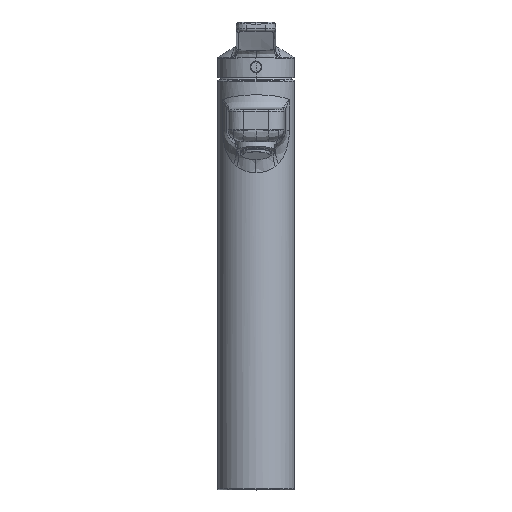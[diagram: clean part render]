
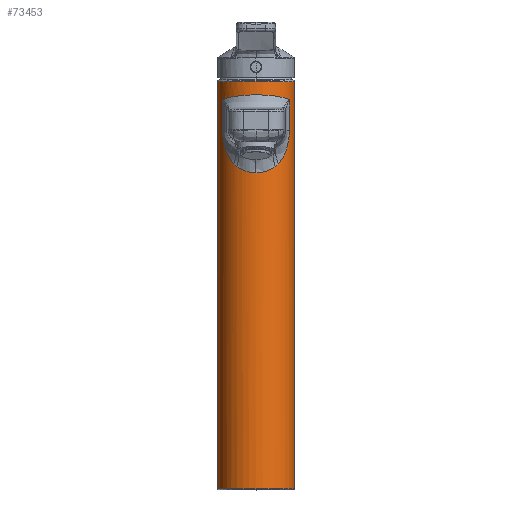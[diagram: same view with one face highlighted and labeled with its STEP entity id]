
A CAD part, top view. The second image highlights one B-rep face of the part: STEP entity #73453.
In plain terms, the highlighted cylindrical face has radius 22.5 mm (diameter 45 mm), a partial arc.
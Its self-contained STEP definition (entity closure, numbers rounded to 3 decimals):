
#9670=DIRECTION('',(0.,1.,0.));
#9671=VECTOR('',#9670,239.65);
#9672=CARTESIAN_POINT('',(22.5,0.8,-181.66));
#9673=LINE('',#9672,#9671);
#9674=CARTESIAN_POINT('',(0.,240.45,-181.66));
#9675=DIRECTION('',(0.,1.,0.));
#9676=DIRECTION('',(-1.,0.,0.));
#9677=AXIS2_PLACEMENT_3D('',#9674,#9675,#9676);
#9679=CARTESIAN_POINT('',(0.,0.8,-181.66));
#9680=DIRECTION('',(0.,-1.,0.));
#9681=DIRECTION('',(1.,0.,0.));
#9682=AXIS2_PLACEMENT_3D('',#9679,#9680,#9681);
#9684=DIRECTION('',(0.,1.,0.));
#9685=VECTOR('',#9684,239.65);
#9686=CARTESIAN_POINT('',(-22.5,0.8,-181.66));
#9687=LINE('',#9686,#9685);
#9688=CARTESIAN_POINT('',(-20.002,229.604,
-171.355));
#9689=CARTESIAN_POINT('',(-19.459,229.89,
-170.302));
#9690=CARTESIAN_POINT('',(-18.21,230.419,
-168.286));
#9691=CARTESIAN_POINT('',(-15.893,231.086,
-165.603));
#9692=CARTESIAN_POINT('',(-13.194,231.629,
-163.321));
#9693=CARTESIAN_POINT('',(-10.179,232.05,
-161.492));
#9694=CARTESIAN_POINT('',(-6.923,232.349,
-160.156));
#9695=CARTESIAN_POINT('',(-3.503,232.528,
-159.342));
#9696=CARTESIAN_POINT('',(0.,232.588,
-159.069));
#9697=CARTESIAN_POINT('',(3.503,232.528,-159.342));
#9698=CARTESIAN_POINT('',(6.923,232.349,-160.156));
#9699=CARTESIAN_POINT('',(10.18,232.05,-161.492));
#9700=CARTESIAN_POINT('',(13.194,231.629,-163.321));
#9701=CARTESIAN_POINT('',(15.893,231.086,-165.603));
#9702=CARTESIAN_POINT('',(18.21,230.419,-168.286));
#9703=CARTESIAN_POINT('',(19.459,229.89,-170.303));
#9704=CARTESIAN_POINT('',(20.002,229.604,-171.355));
#9706=CARTESIAN_POINT('',(-19.649,211.75,-170.699));
#9707=CARTESIAN_POINT('',(-19.642,211.024,
-170.685));
#9708=CARTESIAN_POINT('',(-19.592,209.482,
-170.595));
#9709=CARTESIAN_POINT('',(-19.367,206.91,
-170.202));
#9710=CARTESIAN_POINT('',(-18.918,204.039,
-169.464));
#9711=CARTESIAN_POINT('',(-18.162,200.947,
-168.345));
#9712=CARTESIAN_POINT('',(-16.919,197.545,
-166.765));
#9713=CARTESIAN_POINT('',(-15.104,194.266,
-164.916));
#9714=CARTESIAN_POINT('',(-13.816,192.675,
-163.882));
#9715=CARTESIAN_POINT('',(-13.143,191.968,
-163.398));
#9717=CARTESIAN_POINT('',(-13.143,191.968,
-163.398));
#9718=CARTESIAN_POINT('',(-12.936,191.75,
-163.249));
#9719=CARTESIAN_POINT('',(-12.519,191.338,
-162.959));
#9720=CARTESIAN_POINT('',(-11.887,190.791,
-162.551));
#9721=CARTESIAN_POINT('',(-11.462,190.475,
-162.297));
#9722=CARTESIAN_POINT('',(-11.249,190.329,
-162.174));
#9724=CARTESIAN_POINT('',(-11.249,190.329,
-162.174));
#9725=CARTESIAN_POINT('',(-10.461,189.79,
-161.719));
#9726=CARTESIAN_POINT('',(-8.878,188.845,
-160.933));
#9727=CARTESIAN_POINT('',(-6.576,187.826,
-160.099));
#9728=CARTESIAN_POINT('',(-4.335,187.14,
-159.544));
#9729=CARTESIAN_POINT('',(-2.155,186.747,
-159.228));
#9730=CARTESIAN_POINT('',(-0.712,186.662,
-159.16));
#9731=CARTESIAN_POINT('',(0.,186.662,-159.16));
#9733=CARTESIAN_POINT('',(0.,186.662,-159.16));
#9734=CARTESIAN_POINT('',(0.712,186.662,
-159.16));
#9735=CARTESIAN_POINT('',(2.155,186.747,-159.228));
#9736=CARTESIAN_POINT('',(4.335,187.14,-159.544));
#9737=CARTESIAN_POINT('',(6.576,187.826,-160.099));
#9738=CARTESIAN_POINT('',(8.878,188.845,-160.933));
#9739=CARTESIAN_POINT('',(10.461,189.79,-161.719));
#9740=CARTESIAN_POINT('',(11.249,190.329,-162.174));
#9742=CARTESIAN_POINT('',(11.249,190.329,-162.174));
#9743=CARTESIAN_POINT('',(11.462,190.475,-162.297));
#9744=CARTESIAN_POINT('',(11.887,190.791,-162.551));
#9745=CARTESIAN_POINT('',(12.519,191.338,-162.959));
#9746=CARTESIAN_POINT('',(12.936,191.75,-163.249));
#9747=CARTESIAN_POINT('',(13.143,191.968,-163.398));
#9749=CARTESIAN_POINT('',(13.143,191.968,-163.398));
#9750=CARTESIAN_POINT('',(13.817,192.676,-163.883));
#9751=CARTESIAN_POINT('',(15.106,194.269,-164.918));
#9752=CARTESIAN_POINT('',(16.924,197.552,-166.77));
#9753=CARTESIAN_POINT('',(18.164,200.951,-168.349));
#9754=CARTESIAN_POINT('',(18.92,204.043,-169.466));
#9755=CARTESIAN_POINT('',(19.368,206.912,-170.203));
#9756=CARTESIAN_POINT('',(19.592,209.483,-170.595));
#9757=CARTESIAN_POINT('',(19.642,211.025,-170.685));
#9758=CARTESIAN_POINT('',(19.649,211.75,-170.699));
#9802=CARTESIAN_POINT('',(-20.002,229.604,
-171.355));
#9821=CARTESIAN_POINT('',(20.002,229.604,-171.355));
#9823=CARTESIAN_POINT('',(20.002,229.604,-171.355));
#9824=CARTESIAN_POINT('',(19.956,227.477,-171.267));
#9825=CARTESIAN_POINT('',(19.883,223.318,-171.128));
#9826=CARTESIAN_POINT('',(19.744,217.382,-170.869));
#9827=CARTESIAN_POINT('',(19.669,213.597,-170.734));
#9828=CARTESIAN_POINT('',(19.649,211.75,-170.699));
#9887=CARTESIAN_POINT('',(-19.649,211.75,-170.699));
#9888=CARTESIAN_POINT('',(-19.669,213.6,
-170.735));
#9889=CARTESIAN_POINT('',(-19.745,217.389,
-170.87));
#9890=CARTESIAN_POINT('',(-19.884,223.326,
-171.129));
#9891=CARTESIAN_POINT('',(-19.956,227.481,
-171.268));
#9892=CARTESIAN_POINT('',(-20.002,229.604,
-171.355));
#50366=VERTEX_POINT('',#9749);
#50367=VERTEX_POINT('',#9758);
#50368=VERTEX_POINT('',#9742);
#50369=VERTEX_POINT('',#9733);
#50371=VERTEX_POINT('',#9724);
#50372=VERTEX_POINT('',#9717);
#50373=VERTEX_POINT('',#9706);
#50375=VERTEX_POINT('',#9821);
#50379=VERTEX_POINT('',#9802);
#50384=CARTESIAN_POINT('',(-22.5,240.45,-181.66));
#50385=CARTESIAN_POINT('',(22.5,240.45,-181.66));
#50386=VERTEX_POINT('',#50384);
#50387=VERTEX_POINT('',#50385);
#50392=CARTESIAN_POINT('',(-22.5,0.8,-181.66));
#50393=CARTESIAN_POINT('',(22.5,0.8,-181.66));
#50394=VERTEX_POINT('',#50392);
#50395=VERTEX_POINT('',#50393);
#73421=CARTESIAN_POINT('',(0.,0.,-181.66));
#73422=DIRECTION('',(0.,1.,0.));
#73423=DIRECTION('',(1.,0.,0.));
#73424=AXIS2_PLACEMENT_3D('',#73421,#73422,#73423);
#73425=CYLINDRICAL_SURFACE('',#73424,22.5);
#73426=ORIENTED_EDGE('',*,*,#73386,.T.);
#73427=ORIENTED_EDGE('',*,*,#73416,.F.);
#73429=ORIENTED_EDGE('',*,*,#73428,.T.);
#73430=ORIENTED_EDGE('',*,*,#73412,.T.);
#73431=EDGE_LOOP('',(#73426,#73427,#73429,#73430));
#73432=FACE_OUTER_BOUND('',#73431,.F.);
#73434=ORIENTED_EDGE('',*,*,#73433,.F.);
#73436=ORIENTED_EDGE('',*,*,#73435,.F.);
#73438=ORIENTED_EDGE('',*,*,#73437,.T.);
#73440=ORIENTED_EDGE('',*,*,#73439,.T.);
#73442=ORIENTED_EDGE('',*,*,#73441,.T.);
#73444=ORIENTED_EDGE('',*,*,#73443,.T.);
#73446=ORIENTED_EDGE('',*,*,#73445,.T.);
#73448=ORIENTED_EDGE('',*,*,#73447,.T.);
#73450=ORIENTED_EDGE('',*,*,#73449,.F.);
#73451=EDGE_LOOP('',(#73434,#73436,#73438,#73440,#73442,#73444,#73446,#73448,
#73450));
#73452=FACE_BOUND('',#73451,.F.);
#73453=ADVANCED_FACE('',(#73432,#73452),#73425,.T.);
#9678=CIRCLE('',#9677,22.5);
#9683=CIRCLE('',#9682,22.5);
#9705=B_SPLINE_CURVE_WITH_KNOTS('',3,(#9688,#9689,#9690,#9691,#9692,#9693,#9694,
#9695,#9696,#9697,#9698,#9699,#9700,#9701,#9702,#9703,#9704),.UNSPECIFIED.,.F.,
.F.,(4,1,1,1,1,1,1,1,1,1,1,1,1,1,4),(0.,0.071,0.143,
0.214,0.286,0.357,0.429,0.5,
0.571,0.643,0.714,0.786,
0.857,0.929,1.),.UNSPECIFIED.);
#9716=B_SPLINE_CURVE_WITH_KNOTS('',3,(#9706,#9707,#9708,#9709,#9710,#9711,#9712,
#9713,#9714,#9715),.UNSPECIFIED.,.F.,.F.,(4,1,1,1,1,1,1,4),(0.,
0.143,0.286,0.429,0.571,
0.714,0.857,1.),.UNSPECIFIED.);
#9723=B_SPLINE_CURVE_WITH_KNOTS('',3,(#9717,#9718,#9719,#9720,#9721,#9722),
.UNSPECIFIED.,.F.,.F.,(4,1,1,4),(0.,0.333,0.667,1.),
.UNSPECIFIED.);
#9732=B_SPLINE_CURVE_WITH_KNOTS('',3,(#9724,#9725,#9726,#9727,#9728,#9729,#9730,
#9731),.UNSPECIFIED.,.F.,.F.,(4,1,1,1,1,4),(0.,0.2,0.4,0.6,0.8,1.),
.UNSPECIFIED.);
#9741=B_SPLINE_CURVE_WITH_KNOTS('',3,(#9733,#9734,#9735,#9736,#9737,#9738,#9739,
#9740),.UNSPECIFIED.,.F.,.F.,(4,1,1,1,1,4),(0.,0.2,0.4,0.6,0.8,1.),
.UNSPECIFIED.);
#9748=B_SPLINE_CURVE_WITH_KNOTS('',3,(#9742,#9743,#9744,#9745,#9746,#9747),
.UNSPECIFIED.,.F.,.F.,(4,1,1,4),(0.,0.333,0.667,1.),
.UNSPECIFIED.);
#9759=B_SPLINE_CURVE_WITH_KNOTS('',3,(#9749,#9750,#9751,#9752,#9753,#9754,#9755,
#9756,#9757,#9758),.UNSPECIFIED.,.F.,.F.,(4,1,1,1,1,1,1,4),(0.,
0.143,0.286,0.429,0.571,
0.714,0.857,1.),.UNSPECIFIED.);
#9829=B_SPLINE_CURVE_WITH_KNOTS('',3,(#9823,#9824,#9825,#9826,#9827,#9828),
.UNSPECIFIED.,.F.,.F.,(4,1,1,4),(0.,0.333,0.667,1.),
.UNSPECIFIED.);
#9893=B_SPLINE_CURVE_WITH_KNOTS('',3,(#9887,#9888,#9889,#9890,#9891,#9892),
.UNSPECIFIED.,.F.,.F.,(4,1,1,4),(0.,0.333,0.667,1.),
.UNSPECIFIED.);
#73386=EDGE_CURVE('',#50386,#50387,#9678,.T.);
#73412=EDGE_CURVE('',#50394,#50386,#9687,.T.);
#73416=EDGE_CURVE('',#50395,#50387,#9673,.T.);
#73428=EDGE_CURVE('',#50395,#50394,#9683,.T.);
#73433=EDGE_CURVE('',#50379,#50375,#9705,.T.);
#73435=EDGE_CURVE('',#50373,#50379,#9893,.T.);
#73437=EDGE_CURVE('',#50373,#50372,#9716,.T.);
#73439=EDGE_CURVE('',#50372,#50371,#9723,.T.);
#73441=EDGE_CURVE('',#50371,#50369,#9732,.T.);
#73443=EDGE_CURVE('',#50369,#50368,#9741,.T.);
#73445=EDGE_CURVE('',#50368,#50366,#9748,.T.);
#73447=EDGE_CURVE('',#50366,#50367,#9759,.T.);
#73449=EDGE_CURVE('',#50375,#50367,#9829,.T.);
